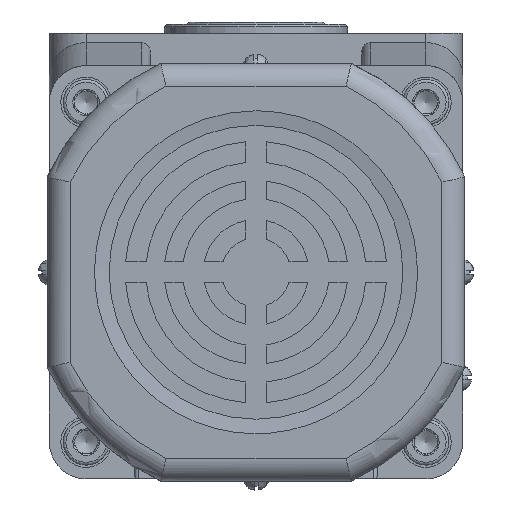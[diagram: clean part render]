
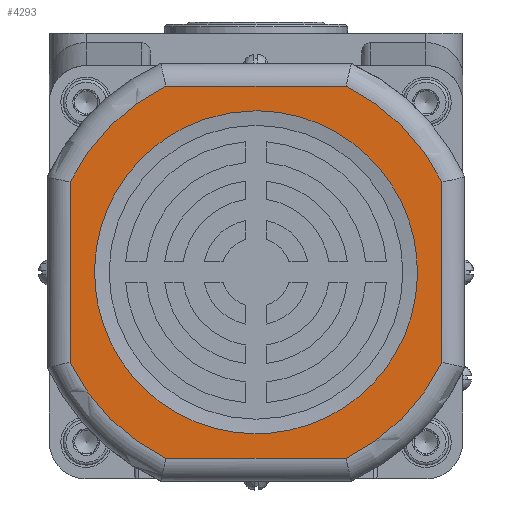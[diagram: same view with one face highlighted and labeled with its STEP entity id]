
A CAD part, front view. The second image highlights one B-rep face of the part: STEP entity #4293.
In plain terms, the highlighted planar face has unit normal (0, -1, 0).
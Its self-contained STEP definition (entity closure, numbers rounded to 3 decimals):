
#819=LINE('',#19588,#1713);
#820=LINE('',#19590,#1714);
#823=LINE('',#19594,#1717);
#825=LINE('',#19597,#1719);
#1713=VECTOR('',#15726,1.);
#1714=VECTOR('',#15729,1.);
#1717=VECTOR('',#15734,1.);
#1719=VECTOR('',#15738,1.);
#2597=B_SPLINE_CURVE_WITH_KNOTS('',3,(#19599,#19600,#19601,#19602,#19603,
#19604,#19605,#19606,#19607,#19608,#19609,#19610,#19611,#19612,#19613,#19614,
#19615,#19616,#19617,#19618,#19619,#19620,#19621,#19622,#19623,#19624,#19625,
#19626,#19627,#19628,#19629,#19630,#19631,#19632),.UNSPECIFIED.,.T.,.F.,
(2,2,2,2,2,2,2,2,2,2,2,2,2,2,2,2,2,2,2),(-0.063,0.,0.063,0.125,0.188,
0.25,0.313,0.375,0.438,0.5,0.563,0.625,0.688,0.75,0.813,0.875,0.938,
1.,1.063),.UNSPECIFIED.);
#4293=ADVANCED_FACE('',(#5519,#5520),#5076,.T.);
#5076=PLANE('',#14189);
#5519=FACE_BOUND('',#5921,.T.);
#5520=FACE_BOUND('',#5922,.T.);
#5921=EDGE_LOOP('',(#7036));
#5922=EDGE_LOOP('',(#7037,#7038,#7039,#7040,#7041,#7042,#7043,#7044));
#7036=ORIENTED_EDGE('',*,*,#11620,.F.);
#7037=ORIENTED_EDGE('',*,*,#11613,.T.);
#7038=ORIENTED_EDGE('',*,*,#11611,.T.);
#7039=ORIENTED_EDGE('',*,*,#11614,.T.);
#7040=ORIENTED_EDGE('',*,*,#11599,.T.);
#7041=ORIENTED_EDGE('',*,*,#11617,.T.);
#7042=ORIENTED_EDGE('',*,*,#11603,.T.);
#7043=ORIENTED_EDGE('',*,*,#11619,.T.);
#7044=ORIENTED_EDGE('',*,*,#11607,.T.);
#10425=VERTEX_POINT('',#19476);
#10427=VERTEX_POINT('',#19491);
#10429=VERTEX_POINT('',#19507);
#10431=VERTEX_POINT('',#19522);
#10433=VERTEX_POINT('',#19538);
#10435=VERTEX_POINT('',#19553);
#10437=VERTEX_POINT('',#19569);
#10439=VERTEX_POINT('',#19584);
#10440=VERTEX_POINT('',#19633);
#11599=EDGE_CURVE('',#10425,#10427,#13329,.T.);
#11603=EDGE_CURVE('',#10429,#10431,#13331,.T.);
#11607=EDGE_CURVE('',#10433,#10435,#13333,.T.);
#11611=EDGE_CURVE('',#10437,#10439,#13335,.T.);
#11613=EDGE_CURVE('',#10435,#10437,#819,.T.);
#11614=EDGE_CURVE('',#10439,#10425,#820,.T.);
#11617=EDGE_CURVE('',#10427,#10429,#823,.T.);
#11619=EDGE_CURVE('',#10431,#10433,#825,.T.);
#11620=EDGE_CURVE('',#10440,#10440,#2597,.T.);
#13329=CIRCLE('',#14174,45.);
#13331=CIRCLE('',#14177,45.);
#13333=CIRCLE('',#14180,45.);
#13335=CIRCLE('',#14183,45.);
#14174=AXIS2_PLACEMENT_3D('',#19492,#15703,#15704);
#14177=AXIS2_PLACEMENT_3D('',#19523,#15709,#15710);
#14180=AXIS2_PLACEMENT_3D('',#19554,#15715,#15716);
#14183=AXIS2_PLACEMENT_3D('',#19585,#15721,#15722);
#14189=AXIS2_PLACEMENT_3D('',#19634,#15741,#15742);
#15703=DIRECTION('',(0.,-1.,0.));
#15704=DIRECTION('',(0.,0.,1.));
#15709=DIRECTION('',(0.,-1.,0.));
#15710=DIRECTION('',(0.,0.,1.));
#15715=DIRECTION('',(0.,-1.,0.));
#15716=DIRECTION('',(0.,0.,1.));
#15721=DIRECTION('',(0.,-1.,0.));
#15722=DIRECTION('',(0.,0.,1.));
#15726=DIRECTION('',(0.,0.,1.));
#15729=DIRECTION('',(-1.,0.,0.));
#15734=DIRECTION('',(0.,0.,-1.));
#15738=DIRECTION('',(1.,0.,0.));
#15741=DIRECTION('',(0.,-1.,0.));
#15742=DIRECTION('',(0.,0.,1.));
#19476=CARTESIAN_POINT('',(-19.615,-275.5,-11.5));
#19491=CARTESIAN_POINT('',(-40.5,-275.5,-32.385));
#19492=CARTESIAN_POINT('',(0.,-275.5,-52.));
#19507=CARTESIAN_POINT('',(-40.5,-275.5,-71.615));
#19522=CARTESIAN_POINT('',(-19.615,-275.5,-92.5));
#19523=CARTESIAN_POINT('',(0.,-275.5,-52.));
#19538=CARTESIAN_POINT('',(19.615,-275.5,-92.5));
#19553=CARTESIAN_POINT('',(40.5,-275.5,-71.615));
#19554=CARTESIAN_POINT('',(0.,-275.5,-52.));
#19569=CARTESIAN_POINT('',(40.5,-275.5,-32.385));
#19584=CARTESIAN_POINT('',(19.615,-275.5,-11.5));
#19585=CARTESIAN_POINT('',(0.,-275.5,-52.));
#19588=CARTESIAN_POINT('',(40.5,-275.5,-52.));
#19590=CARTESIAN_POINT('',(-35.157,-275.5,-11.5));
#19594=CARTESIAN_POINT('',(-40.5,-275.5,-52.));
#19597=CARTESIAN_POINT('',(-35.157,-275.5,-92.5));
#19599=CARTESIAN_POINT('',(4.602,-275.5,-16.843));
#19600=CARTESIAN_POINT('',(-4.602,-275.5,-16.843));
#19601=CARTESIAN_POINT('',(-9.202,-275.5,-17.758));
#19602=CARTESIAN_POINT('',(-17.706,-275.5,-21.28));
#19603=CARTESIAN_POINT('',(-21.606,-275.5,-23.886));
#19604=CARTESIAN_POINT('',(-28.114,-275.5,-30.394));
#19605=CARTESIAN_POINT('',(-30.72,-275.5,-34.294));
#19606=CARTESIAN_POINT('',(-34.242,-275.5,-42.798));
#19607=CARTESIAN_POINT('',(-35.157,-275.5,-47.398));
#19608=CARTESIAN_POINT('',(-35.157,-275.5,-56.602));
#19609=CARTESIAN_POINT('',(-34.242,-275.5,-61.202));
#19610=CARTESIAN_POINT('',(-30.72,-275.5,-69.706));
#19611=CARTESIAN_POINT('',(-28.114,-275.5,-73.606));
#19612=CARTESIAN_POINT('',(-21.606,-275.5,-80.114));
#19613=CARTESIAN_POINT('',(-17.706,-275.5,-82.72));
#19614=CARTESIAN_POINT('',(-9.202,-275.5,-86.242));
#19615=CARTESIAN_POINT('',(-4.602,-275.5,-87.157));
#19616=CARTESIAN_POINT('',(4.602,-275.5,-87.157));
#19617=CARTESIAN_POINT('',(9.202,-275.5,-86.242));
#19618=CARTESIAN_POINT('',(17.706,-275.5,-82.72));
#19619=CARTESIAN_POINT('',(21.606,-275.5,-80.114));
#19620=CARTESIAN_POINT('',(28.114,-275.5,-73.606));
#19621=CARTESIAN_POINT('',(30.72,-275.5,-69.706));
#19622=CARTESIAN_POINT('',(34.242,-275.5,-61.202));
#19623=CARTESIAN_POINT('',(35.157,-275.5,-56.602));
#19624=CARTESIAN_POINT('',(35.157,-275.5,-47.398));
#19625=CARTESIAN_POINT('',(34.242,-275.5,-42.798));
#19626=CARTESIAN_POINT('',(30.72,-275.5,-34.294));
#19627=CARTESIAN_POINT('',(28.114,-275.5,-30.394));
#19628=CARTESIAN_POINT('',(21.606,-275.5,-23.886));
#19629=CARTESIAN_POINT('',(17.706,-275.5,-21.28));
#19630=CARTESIAN_POINT('',(9.202,-275.5,-17.758));
#19631=CARTESIAN_POINT('',(4.602,-275.5,-16.843));
#19632=CARTESIAN_POINT('',(-4.602,-275.5,-16.843));
#19633=CARTESIAN_POINT('',(0.,-275.5,-16.843));
#19634=CARTESIAN_POINT('',(-35.157,-275.5,-52.));
